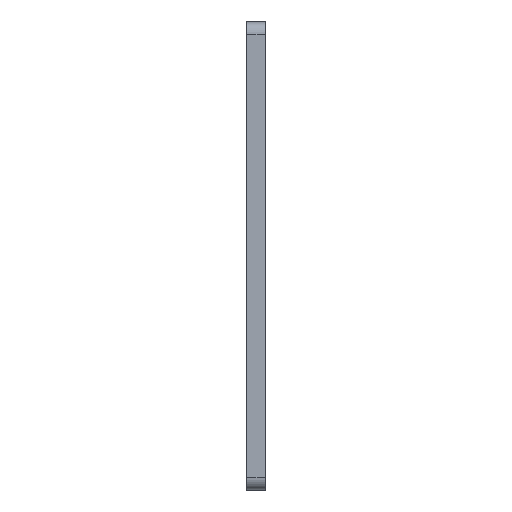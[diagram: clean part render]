
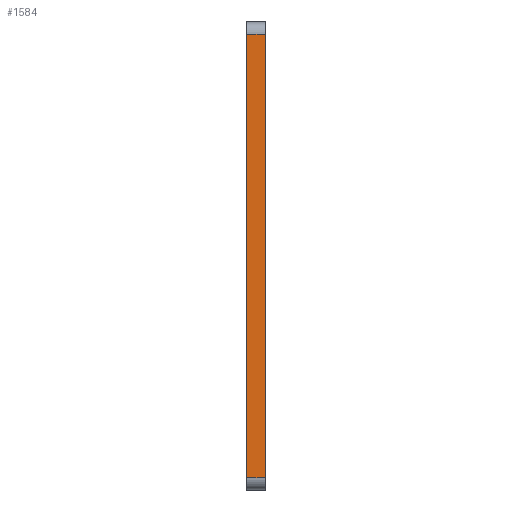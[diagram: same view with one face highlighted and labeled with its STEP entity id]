
A CAD part, left-side view. The second image highlights one B-rep face of the part: STEP entity #1584.
In plain terms, the highlighted planar face has unit normal (-1, 0, 0).
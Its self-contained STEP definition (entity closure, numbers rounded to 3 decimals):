
#65=PLANE('',#1743);
#136=FACE_OUTER_BOUND('',#215,.T.);
#215=EDGE_LOOP('',(#1264,#1265,#1266,#1267));
#372=LINE('',#2619,#521);
#373=LINE('',#2622,#522);
#374=LINE('',#2624,#523);
#375=LINE('',#2625,#524);
#521=VECTOR('',#2150,10.);
#522=VECTOR('',#2153,10.);
#523=VECTOR('',#2154,10.);
#524=VECTOR('',#2155,10.);
#757=VERTEX_POINT('',#2615);
#758=VERTEX_POINT('',#2617);
#759=VERTEX_POINT('',#2621);
#760=VERTEX_POINT('',#2623);
#972=EDGE_CURVE('',#757,#758,#372,.T.);
#973=EDGE_CURVE('',#757,#759,#373,.T.);
#974=EDGE_CURVE('',#760,#758,#374,.T.);
#975=EDGE_CURVE('',#759,#760,#375,.T.);
#1264=ORIENTED_EDGE('',*,*,#973,.F.);
#1265=ORIENTED_EDGE('',*,*,#972,.T.);
#1266=ORIENTED_EDGE('',*,*,#974,.F.);
#1267=ORIENTED_EDGE('',*,*,#975,.F.);
#1584=ADVANCED_FACE('',(#136),#65,.T.);
#1743=AXIS2_PLACEMENT_3D('',#2620,#2151,#2152);
#2150=DIRECTION('',(0.,-1.,0.));
#2151=DIRECTION('center_axis',(-1.,0.,0.));
#2152=DIRECTION('ref_axis',(0.,0.,-1.));
#2153=DIRECTION('',(0.,0.,1.));
#2154=DIRECTION('',(0.,0.,-1.));
#2155=DIRECTION('',(0.,-1.,0.));
#2615=CARTESIAN_POINT('',(-48.011,0.,-36.));
#2617=CARTESIAN_POINT('',(-48.011,-3.,-36.));
#2619=CARTESIAN_POINT('',(-48.011,0.,-36.));
#2620=CARTESIAN_POINT('Origin',(-48.011,0.,36.));
#2621=CARTESIAN_POINT('',(-48.011,0.,36.));
#2622=CARTESIAN_POINT('',(-48.011,0.,0.));
#2623=CARTESIAN_POINT('',(-48.011,-3.,36.));
#2624=CARTESIAN_POINT('',(-48.011,-3.,0.));
#2625=CARTESIAN_POINT('',(-48.011,0.,36.));
